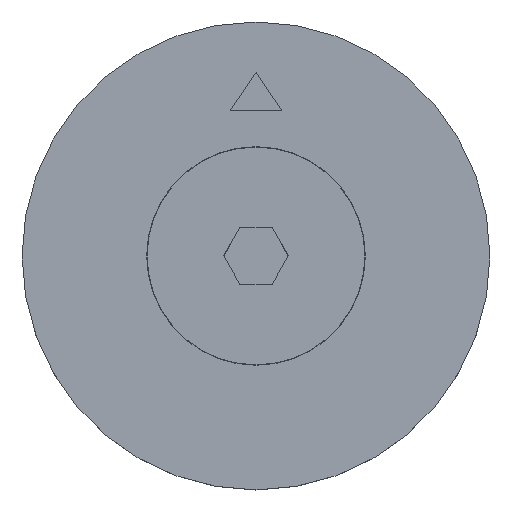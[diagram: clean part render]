
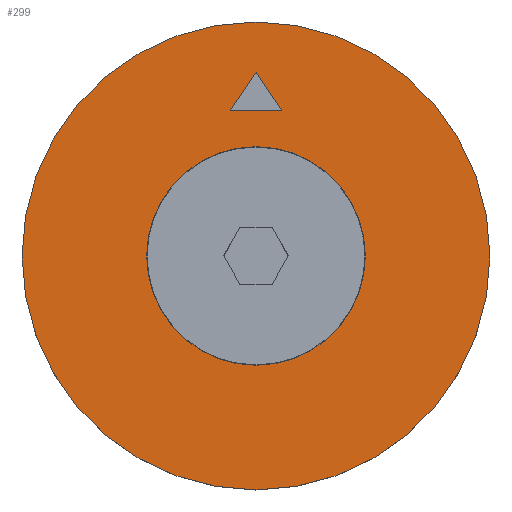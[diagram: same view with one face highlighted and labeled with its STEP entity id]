
A CAD part, top view. The second image highlights one B-rep face of the part: STEP entity #299.
In plain terms, the highlighted planar face has unit normal (0, 0, 1).
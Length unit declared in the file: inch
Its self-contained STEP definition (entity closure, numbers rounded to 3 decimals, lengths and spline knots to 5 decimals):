
#22 = DIRECTION ( 'NONE',  ( -0.559, -0.829, 0. ) ) ;
#37 = LINE ( 'NONE', #134, #204 ) ;
#64 = FACE_BOUND ( 'NONE', #684, .T. ) ;
#67 = VERTEX_POINT ( 'NONE', #419 ) ;
#75 = VERTEX_POINT ( 'NONE', #484 ) ;
#94 = CARTESIAN_POINT ( 'NONE',  ( 0., 0.38638, 0. ) ) ;
#97 = DIRECTION ( 'NONE',  ( 1., 0., 0. ) ) ;
#112 = VERTEX_POINT ( 'NONE', #824 ) ;
#117 = DIRECTION ( 'NONE',  ( -1., 0., 0. ) ) ;
#126 = LINE ( 'NONE', #94, #539 ) ;
#134 = CARTESIAN_POINT ( 'NONE',  ( -0.05433, 0.30583, 0. ) ) ;
#140 = CARTESIAN_POINT ( 'NONE',  ( -0.49213, 0., 0. ) ) ;
#185 = ORIENTED_EDGE ( 'NONE', *, *, #229, .F. ) ;
#190 = EDGE_CURVE ( 'NONE', #572, #112, #448, .T. ) ;
#202 = DIRECTION ( 'NONE',  ( 0., 0., 1. ) ) ;
#204 = VECTOR ( 'NONE', #678, 39.37008 ) ;
#219 = ORIENTED_EDGE ( 'NONE', *, *, #651, .T. ) ;
#229 = EDGE_CURVE ( 'NONE', #576, #593, #126, .T. ) ;
#235 = AXIS2_PLACEMENT_3D ( 'NONE', #677, #202, #547 ) ;
#237 = CARTESIAN_POINT ( 'NONE',  ( 0., 0., 0. ) ) ;
#272 = AXIS2_PLACEMENT_3D ( 'NONE', #237, #380, #782 ) ;
#299 = ADVANCED_FACE ( 'NONE', ( #379, #64, #570 ), #427, .F. ) ;
#303 = EDGE_CURVE ( 'NONE', #593, #75, #37, .T. ) ;
#343 = AXIS2_PLACEMENT_3D ( 'NONE', #703, #711, #97 ) ;
#349 = EDGE_CURVE ( 'NONE', #112, #572, #521, .T. ) ;
#379 = FACE_OUTER_BOUND ( 'NONE', #724, .T. ) ;
#380 = DIRECTION ( 'NONE',  ( 0., 0., 1. ) ) ;
#382 = VERTEX_POINT ( 'NONE', #140 ) ;
#413 = DIRECTION ( 'NONE',  ( -0.559, 0.829, 0. ) ) ;
#419 = CARTESIAN_POINT ( 'NONE',  ( 0.49213, 0., 0. ) ) ;
#420 = EDGE_CURVE ( 'NONE', #75, #576, #787, .T. ) ;
#427 = PLANE ( 'NONE',  #854 ) ;
#448 = CIRCLE ( 'NONE', #343, 0.22992 ) ;
#460 = ORIENTED_EDGE ( 'NONE', *, *, #533, .T. ) ;
#474 = VECTOR ( 'NONE', #413, 39.37008 ) ;
#484 = CARTESIAN_POINT ( 'NONE',  ( 0.05433, 0.30583, 0. ) ) ;
#492 = DIRECTION ( 'NONE',  ( 0., 0., 1. ) ) ;
#495 = CARTESIAN_POINT ( 'NONE',  ( 0.22992, 0., 0. ) ) ;
#503 = EDGE_LOOP ( 'NONE', ( #842, #185, #809 ) ) ;
#521 = CIRCLE ( 'NONE', #235, 0.22992 ) ;
#533 = EDGE_CURVE ( 'NONE', #382, #67, #814, .T. ) ;
#539 = VECTOR ( 'NONE', #22, 39.37008 ) ;
#544 = CARTESIAN_POINT ( 'NONE',  ( 0.05433, 0.30583, 0. ) ) ;
#547 = DIRECTION ( 'NONE',  ( 1., 0., 0. ) ) ;
#563 = DIRECTION ( 'NONE',  ( 1., 0., 0. ) ) ;
#570 = FACE_BOUND ( 'NONE', #503, .T. ) ;
#572 = VERTEX_POINT ( 'NONE', #495 ) ;
#575 = CARTESIAN_POINT ( 'NONE',  ( 0., 0.49213, 0. ) ) ;
#576 = VERTEX_POINT ( 'NONE', #616 ) ;
#580 = CIRCLE ( 'NONE', #272, 0.49213 ) ;
#593 = VERTEX_POINT ( 'NONE', #649 ) ;
#616 = CARTESIAN_POINT ( 'NONE',  ( 0., 0.38638, 0. ) ) ;
#631 = ORIENTED_EDGE ( 'NONE', *, *, #190, .F. ) ;
#649 = CARTESIAN_POINT ( 'NONE',  ( -0.05433, 0.30583, 0. ) ) ;
#651 = EDGE_CURVE ( 'NONE', #67, #382, #580, .T. ) ;
#677 = CARTESIAN_POINT ( 'NONE',  ( 0., 0., 0. ) ) ;
#678 = DIRECTION ( 'NONE',  ( 1., 0., 0. ) ) ;
#684 = EDGE_LOOP ( 'NONE', ( #631, #790 ) ) ;
#692 = CARTESIAN_POINT ( 'NONE',  ( 0., 0., 0. ) ) ;
#697 = AXIS2_PLACEMENT_3D ( 'NONE', #692, #492, #563 ) ;
#703 = CARTESIAN_POINT ( 'NONE',  ( 0., 0., 0. ) ) ;
#711 = DIRECTION ( 'NONE',  ( 0., 0., 1. ) ) ;
#724 = EDGE_LOOP ( 'NONE', ( #219, #460 ) ) ;
#782 = DIRECTION ( 'NONE',  ( 1., 0., 0. ) ) ;
#787 = LINE ( 'NONE', #544, #474 ) ;
#790 = ORIENTED_EDGE ( 'NONE', *, *, #349, .F. ) ;
#796 = DIRECTION ( 'NONE',  ( 0., 0., -1. ) ) ;
#809 = ORIENTED_EDGE ( 'NONE', *, *, #420, .F. ) ;
#814 = CIRCLE ( 'NONE', #697, 0.49213 ) ;
#824 = CARTESIAN_POINT ( 'NONE',  ( -0.22992, 0., 0. ) ) ;
#842 = ORIENTED_EDGE ( 'NONE', *, *, #303, .F. ) ;
#854 = AXIS2_PLACEMENT_3D ( 'NONE', #575, #796, #117 ) ;
